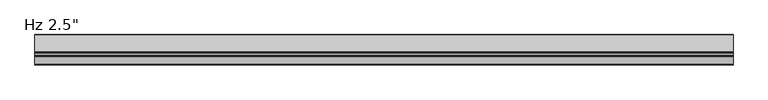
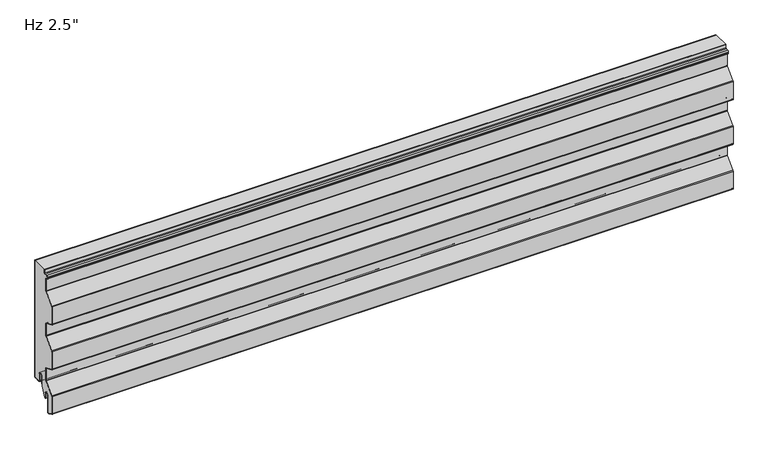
"""IFC4 building model written with IfcOpenShell, lengths in millimetres: plate geometry."""

from ifc_helpers import new_model, si_unit, point, frame, frame_2d, origin, place, context, project, spatial, polyline, circle_curve, trimmed, segment, composite_curve, outline, extrude, source, transform, mapped, element, save


def plate_841f3068(model_context):
    return source(origin(), model_context, "Body", "SweptSolid", [
        extrude(outline(composite_curve([segment(polyline([(-26.4011912, 19.05), (-26.4011912, -3.1976612), (-36.533822, -23.01875), (-38.6886912, -23.01875), (-38.6886912, -11.90625)]), True, "CONTINUOUS"), segment(trimmed(circle_curve(frame_2d((-43.6574412, -11.90625)), 4.96875), [point((-38.6886912, -11.90625))], [point((-48.6261912, -11.90625))], True, "CARTESIAN"), True, "CONTINUOUS"), segment(polyline([(-48.6261912, -11.90625), (-48.6261912, -48.8194049)]), True, "CONTINUOUS"), segment(trimmed(circle_curve(frame_2d((-50.0074412, -48.8194049)), 1.38125), [point((-48.6261912, -48.8194049))], [point((-50.5666208, -50.0824052))], False, "CARTESIAN"), True, "CONTINUOUS"), segment(polyline([(-50.5666208, -50.0824052), (-61.6779296, -45.1629946)]), True, "CONTINUOUS"), segment(trimmed(circle_curve(frame_2d((-61.11875, -43.8999943)), 1.38125), [point((-61.6779296, -45.1629946))], [point((-62.5, -43.8999943))], False, "CARTESIAN"), True, "CONTINUOUS"), segment(polyline([(-62.5, -43.8999943), (-62.5, -5.0536946)]), True, "CONTINUOUS"), segment(trimmed(circle_curve(frame_2d((-60.4012, -5.0536946)), 2.0988), [point((-62.5, -5.0536946))], [point((-61.9092077, -3.5939431))], False, "CARTESIAN"), True, "CONTINUOUS"), segment(polyline([(-61.9092077, -3.5939431), (-41.7145567, 17.2682996)]), True, "CONTINUOUS"), segment(trimmed(circle_curve(frame_2d((-43.5737, 19.0679503)), 2.5875), [point((-41.7145567, 17.2682996))], [point((-40.9862, 19.0679503))], True, "CARTESIAN"), True, "CONTINUOUS"), segment(polyline([(-40.9862, 19.0679503), (-40.9862, 45.5917981)]), True, "CONTINUOUS"), segment(trimmed(circle_curve(frame_2d((-43.5737, 45.5917981)), 2.5875), [point((-40.9862, 45.5917981))], [point((-42.5261871, 47.9577806))], True, "CARTESIAN"), True, "CONTINUOUS"), segment(polyline([(-42.5261871, 47.9577806), (-61.6779296, 56.4370054)]), True, "CONTINUOUS"), segment(trimmed(circle_curve(frame_2d((-61.11875, 57.7000057)), 1.38125), [point((-61.6779296, 56.4370054))], [point((-62.5, 57.7000057))], False, "CARTESIAN"), True, "CONTINUOUS"), segment(polyline([(-62.5, 57.7000057), (-62.5, 96.8367131)]), True, "CONTINUOUS"), segment(trimmed(circle_curve(frame_2d((-61.11875, 96.8367131)), 1.38125), [point((-62.5, 96.8367131))], [point((-62.1111912, 97.7973962))], False, "CARTESIAN"), True, "CONTINUOUS"), segment(polyline([(-62.1111912, 97.7973962), (-41.7145567, 118.8682996)]), True, "CONTINUOUS"), segment(trimmed(circle_curve(frame_2d((-43.5737, 120.6679503)), 2.5875), [point((-41.7145567, 118.8682996))], [point((-40.9862, 120.6679503))], True, "CARTESIAN"), True, "CONTINUOUS"), segment(polyline([(-40.9862, 120.6679503), (-40.9862, 147.1917981)]), True, "CONTINUOUS"), segment(trimmed(circle_curve(frame_2d((-43.5737, 147.1917981)), 2.5875), [point((-40.9862, 147.1917981))], [point((-42.5261871, 149.5577806))], True, "CARTESIAN"), True, "CONTINUOUS"), segment(polyline([(-42.5261871, 149.5577806), (-61.6779296, 158.0370054)]), True, "CONTINUOUS"), segment(trimmed(circle_curve(frame_2d((-61.11875, 159.3000057)), 1.38125), [point((-61.6779296, 158.0370054))], [point((-62.5, 159.3000057))], False, "CARTESIAN"), True, "CONTINUOUS"), segment(polyline([(-62.5, 159.3000057), (-62.5, 198.4367131)]), True, "CONTINUOUS"), segment(trimmed(circle_curve(frame_2d((-61.11875, 198.4367131)), 1.38125), [point((-62.5, 198.4367131))], [point((-62.1111912, 199.3973962))], False, "CARTESIAN"), True, "CONTINUOUS"), segment(polyline([(-62.1111912, 199.3973962), (-41.7145567, 220.4682996)]), True, "CONTINUOUS"), segment(trimmed(circle_curve(frame_2d((-43.5737, 222.2679503)), 2.5875), [point((-41.7145567, 220.4682996))], [point((-40.9862, 222.2679503))], True, "CARTESIAN"), True, "CONTINUOUS"), segment(polyline([(-40.9862, 222.2679503), (-40.9862, 248.7917981)]), True, "CONTINUOUS"), segment(trimmed(circle_curve(frame_2d((-43.5737, 248.7917981)), 2.5875), [point((-40.9862, 248.7917981))], [point((-42.5261871, 251.1577806))], True, "CARTESIAN"), True, "CONTINUOUS"), segment(polyline([(-42.5261871, 251.1577806), (-44.2166208, 251.9062016)]), True, "CONTINUOUS"), segment(trimmed(circle_curve(frame_2d((-43.6574412, 253.1692019)), 1.38125), [point((-44.2166208, 251.9062016))], [point((-45.0386912, 253.1692019))], False, "CARTESIAN"), True, "CONTINUOUS"), segment(polyline([(-45.0386912, 253.1692019), (-45.0386912, 255.4967085)]), True, "CONTINUOUS"), segment(trimmed(circle_curve(frame_2d((-43.6574412, 255.4967085)), 1.38125), [point((-45.0386912, 255.4967085))], [point((-43.7297302, 256.8760655))], False, "CARTESIAN"), True, "CONTINUOUS"), segment(polyline([(-43.7297302, 256.8760655), (-37.9657719, 257.1781418)]), True, "CONTINUOUS"), segment(trimmed(circle_curve(frame_2d((-38.1011912, 259.7620957)), 2.5875), [point((-37.9657719, 257.1781418))], [point((-35.5136912, 259.7620957))], True, "CARTESIAN"), True, "CONTINUOUS"), segment(polyline([(-35.5136912, 259.7620957), (-35.5136912, 266.4), (-1.0011912, 266.4), (-1.0011912, 3.175)]), True, "CONTINUOUS"), segment(trimmed(circle_curve(frame_2d((-2.3824412, 3.175)), 1.38125), [point((-1.0011912, 3.175))], [point((-2.3824412, 1.79375))], False, "CARTESIAN"), True, "CONTINUOUS"), segment(polyline([(-2.3824412, 1.79375), (-15.0824412, 1.79375)]), True, "CONTINUOUS"), segment(trimmed(circle_curve(frame_2d((-15.0824412, 3.175)), 1.38125), [point((-15.0824412, 1.79375))], [point((-16.4636912, 3.175))], False, "CARTESIAN"), True, "CONTINUOUS"), segment(polyline([(-16.4636912, 3.175), (-16.4636912, 19.05)]), True, "CONTINUOUS"), segment(trimmed(circle_curve(frame_2d((-21.4324412, 19.05)), 4.96875), [point((-16.4636912, 19.05))], [point((-26.4011912, 19.05))], True, "CARTESIAN"), True, "CONTINUOUS")], self_intersect=False)), frame((-730.0, 0.0, 0.0), z_axis=(1.0, 0.0, 0.0), x_axis=(0.0, 1.0, 0.0)), (0.0, 0.0, 1.0), 1460.0),
        extrude(outline(composite_curve([segment(polyline([(-25.4, 0.79375), (-26.4, 0.79375), (-26.4, 19.05)]), True, "CONTINUOUS"), segment(trimmed(circle_curve(frame_2d((-21.43125, 19.05)), 4.96875), [point((-26.4, 19.05))], [point((-16.4625, 19.05))], False, "CARTESIAN"), True, "CONTINUOUS"), segment(polyline([(-16.4625, 19.05), (-16.4625, 3.175)]), True, "CONTINUOUS"), segment(trimmed(circle_curve(frame_2d((-15.08125, 3.175)), 1.38125), [point((-16.4625, 3.175))], [point((-15.08125, 1.79375))], True, "CARTESIAN"), True, "CONTINUOUS"), segment(polyline([(-15.08125, 1.79375), (-2.38125, 1.79375)]), True, "CONTINUOUS"), segment(trimmed(circle_curve(frame_2d((-2.38125, 3.175)), 1.38125), [point((-2.38125, 1.79375))], [point((-1.0, 3.175))], True, "CARTESIAN"), True, "CONTINUOUS"), segment(polyline([(-1.0, 3.175), (-1.0, 266.4), (0.0, 266.4), (0.0, 3.175)]), True, "CONTINUOUS"), segment(trimmed(circle_curve(frame_2d((-2.38125, 3.175)), 2.38125), [point((0.0, 3.175))], [point((-2.38125, 0.79375))], False, "CARTESIAN"), True, "CONTINUOUS"), segment(polyline([(-2.38125, 0.79375), (-15.08125, 0.79375)]), True, "CONTINUOUS"), segment(trimmed(circle_curve(frame_2d((-15.08125, 3.175)), 2.38125), [point((-15.08125, 0.79375))], [point((-17.4625, 3.175))], False, "CARTESIAN"), True, "CONTINUOUS"), segment(polyline([(-17.4625, 3.175), (-17.4625, 19.05)]), True, "CONTINUOUS"), segment(trimmed(circle_curve(frame_2d((-21.43125, 19.05)), 3.96875), [point((-17.4625, 19.05))], [point((-25.4, 19.05))], True, "CARTESIAN"), True, "CONTINUOUS"), segment(polyline([(-25.4, 19.05), (-25.4, 0.79375)]), True, "CONTINUOUS")], self_intersect=False)), frame((-730.0, 0.0, 0.0), z_axis=(1.0, 0.0, 0.0), x_axis=(0.0, 1.0, 0.0)), (0.0, 0.0, 1.0), 1460.0),
        extrude(outline(composite_curve([segment(polyline([(-47.6261912, -11.90625), (-47.6261912, -48.8194049)]), True, "CONTINUOUS"), segment(trimmed(circle_curve(frame_2d((-50.0074412, -48.8194049)), 2.38125), [point((-47.6261912, -48.8194049))], [point((-50.9714567, -50.9967946))], False, "CARTESIAN"), True, "CONTINUOUS"), segment(polyline([(-50.9714567, -50.9967946), (-62.0827655, -46.0773839)]), True, "CONTINUOUS"), segment(trimmed(circle_curve(frame_2d((-61.11875, -43.8999943)), 2.38125), [point((-62.0827655, -46.0773839))], [point((-63.5, -43.8999943))], False, "CARTESIAN"), True, "CONTINUOUS"), segment(polyline([(-63.5, -43.8999943), (-63.5, -5.0536946)]), True, "CONTINUOUS"), segment(trimmed(circle_curve(frame_2d((-60.4012, -5.0536946)), 3.0988), [point((-63.5, -5.0536946))], [point((-62.6277172, -2.8984259))], False, "CARTESIAN"), True, "CONTINUOUS"), segment(polyline([(-62.6277172, -2.8984259), (-42.4330662, 17.9638168)]), True, "CONTINUOUS"), segment(trimmed(circle_curve(frame_2d((-43.5737, 19.0679503)), 1.5875), [point((-42.4330662, 17.9638168))], [point((-41.9862, 19.0679503))], True, "CARTESIAN"), True, "CONTINUOUS"), segment(polyline([(-41.9862, 19.0679503), (-41.9862, 45.5917981)]), True, "CONTINUOUS"), segment(trimmed(circle_curve(frame_2d((-43.5737, 45.5917981)), 1.5875), [point((-41.9862, 45.5917981))], [point((-42.931023, 47.0433912))], True, "CARTESIAN"), True, "CONTINUOUS"), segment(polyline([(-42.931023, 47.0433912), (-62.0827655, 55.5226161)]), True, "CONTINUOUS"), segment(trimmed(circle_curve(frame_2d((-61.11875, 57.7000057)), 2.38125), [point((-62.0827655, 55.5226161))], [point((-63.5, 57.7000057))], False, "CARTESIAN"), True, "CONTINUOUS"), segment(polyline([(-63.5, 57.7000057), (-63.5, 96.8367131)]), True, "CONTINUOUS"), segment(trimmed(circle_curve(frame_2d((-61.11875, 96.8367131)), 2.38125), [point((-63.5, 96.8367131))], [point((-62.8297007, 98.4929134))], False, "CARTESIAN"), True, "CONTINUOUS"), segment(polyline([(-62.8297007, 98.4929134), (-42.4330662, 119.5638168)]), True, "CONTINUOUS"), segment(trimmed(circle_curve(frame_2d((-43.5737, 120.6679503)), 1.5875), [point((-42.4330662, 119.5638168))], [point((-41.9862, 120.6679503))], True, "CARTESIAN"), True, "CONTINUOUS"), segment(polyline([(-41.9862, 120.6679503), (-41.9862, 147.1917981)]), True, "CONTINUOUS"), segment(trimmed(circle_curve(frame_2d((-43.5737, 147.1917981)), 1.5875), [point((-41.9862, 147.1917981))], [point((-42.931023, 148.6433912))], True, "CARTESIAN"), True, "CONTINUOUS"), segment(polyline([(-42.931023, 148.6433912), (-62.0827655, 157.1226161)]), True, "CONTINUOUS"), segment(trimmed(circle_curve(frame_2d((-61.11875, 159.3000057)), 2.38125), [point((-62.0827655, 157.1226161))], [point((-63.5, 159.3000057))], False, "CARTESIAN"), True, "CONTINUOUS"), segment(polyline([(-63.5, 159.3000057), (-63.5, 198.4367131)]), True, "CONTINUOUS"), segment(trimmed(circle_curve(frame_2d((-61.11875, 198.4367131)), 2.38125), [point((-63.5, 198.4367131))], [point((-62.8297007, 200.0929134))], False, "CARTESIAN"), True, "CONTINUOUS"), segment(polyline([(-62.8297007, 200.0929134), (-42.4330662, 221.1638168)]), True, "CONTINUOUS"), segment(trimmed(circle_curve(frame_2d((-43.5737, 222.2679503)), 1.5875), [point((-42.4330662, 221.1638168))], [point((-41.9862, 222.2679503))], True, "CARTESIAN"), True, "CONTINUOUS"), segment(polyline([(-41.9862, 222.2679503), (-41.9862, 248.7917981)]), True, "CONTINUOUS"), segment(trimmed(circle_curve(frame_2d((-43.5737, 248.7917981)), 1.5875), [point((-41.9862, 248.7917981))], [point((-42.931023, 250.2433912))], True, "CARTESIAN"), True, "CONTINUOUS"), segment(polyline([(-42.931023, 250.2433912), (-44.6214567, 250.9918123)]), True, "CONTINUOUS"), segment(trimmed(circle_curve(frame_2d((-43.6574412, 253.1692019)), 2.38125), [point((-44.6214567, 250.9918123))], [point((-46.0386912, 253.1692019))], False, "CARTESIAN"), True, "CONTINUOUS"), segment(polyline([(-46.0386912, 253.1692019), (-46.0386912, 255.4967085)]), True, "CONTINUOUS"), segment(trimmed(circle_curve(frame_2d((-43.6574412, 255.4967085)), 2.38125), [point((-46.0386912, 255.4967085))], [point((-43.7820662, 257.8746951))], False, "CARTESIAN"), True, "CONTINUOUS"), segment(polyline([(-43.7820662, 257.8746951), (-38.0181078, 258.1767713)]), True, "CONTINUOUS"), segment(trimmed(circle_curve(frame_2d((-38.1011912, 259.7620957)), 1.5875), [point((-38.0181078, 258.1767713))], [point((-36.5136912, 259.7620957))], True, "CARTESIAN"), True, "CONTINUOUS"), segment(polyline([(-36.5136912, 259.7620957), (-36.5136912, 266.4), (-35.5136912, 266.4), (-35.5136912, 259.7620957)]), True, "CONTINUOUS"), segment(trimmed(circle_curve(frame_2d((-38.1011912, 259.7620957)), 2.5875), [point((-35.5136912, 259.7620957))], [point((-37.9657719, 257.1781418))], False, "CARTESIAN"), True, "CONTINUOUS"), segment(polyline([(-37.9657719, 257.1781418), (-43.7297302, 256.8760655)]), True, "CONTINUOUS"), segment(trimmed(circle_curve(frame_2d((-43.6574412, 255.4967085)), 1.38125), [point((-43.7297302, 256.8760655))], [point((-45.0386912, 255.4967085))], True, "CARTESIAN"), True, "CONTINUOUS"), segment(polyline([(-45.0386912, 255.4967085), (-45.0386912, 253.1692019)]), True, "CONTINUOUS"), segment(trimmed(circle_curve(frame_2d((-43.6574412, 253.1692019)), 1.38125), [point((-45.0386912, 253.1692019))], [point((-44.2166208, 251.9062016))], True, "CARTESIAN"), True, "CONTINUOUS"), segment(polyline([(-44.2166208, 251.9062016), (-42.5261871, 251.1577806)]), True, "CONTINUOUS"), segment(trimmed(circle_curve(frame_2d((-43.5737, 248.7917981)), 2.5875), [point((-42.5261871, 251.1577806))], [point((-40.9862, 248.7917981))], False, "CARTESIAN"), True, "CONTINUOUS"), segment(polyline([(-40.9862, 248.7917981), (-40.9862, 222.2679503)]), True, "CONTINUOUS"), segment(trimmed(circle_curve(frame_2d((-43.5737, 222.2679503)), 2.5875), [point((-40.9862, 222.2679503))], [point((-41.7145567, 220.4682996))], False, "CARTESIAN"), True, "CONTINUOUS"), segment(polyline([(-41.7145567, 220.4682996), (-62.1111912, 199.3973962)]), True, "CONTINUOUS"), segment(trimmed(circle_curve(frame_2d((-61.11875, 198.4367131)), 1.38125), [point((-62.1111912, 199.3973962))], [point((-62.5, 198.4367131))], True, "CARTESIAN"), True, "CONTINUOUS"), segment(polyline([(-62.5, 198.4367131), (-62.5, 159.3000057)]), True, "CONTINUOUS"), segment(trimmed(circle_curve(frame_2d((-61.11875, 159.3000057)), 1.38125), [point((-62.5, 159.3000057))], [point((-61.6779296, 158.0370054))], True, "CARTESIAN"), True, "CONTINUOUS"), segment(polyline([(-61.6779296, 158.0370054), (-42.5261871, 149.5577806)]), True, "CONTINUOUS"), segment(trimmed(circle_curve(frame_2d((-43.5737, 147.1917981)), 2.5875), [point((-42.5261871, 149.5577806))], [point((-40.9862, 147.1917981))], False, "CARTESIAN"), True, "CONTINUOUS"), segment(polyline([(-40.9862, 147.1917981), (-40.9862, 120.6679503)]), True, "CONTINUOUS"), segment(trimmed(circle_curve(frame_2d((-43.5737, 120.6679503)), 2.5875), [point((-40.9862, 120.6679503))], [point((-41.7145567, 118.8682996))], False, "CARTESIAN"), True, "CONTINUOUS"), segment(polyline([(-41.7145567, 118.8682996), (-62.1111912, 97.7973962)]), True, "CONTINUOUS"), segment(trimmed(circle_curve(frame_2d((-61.11875, 96.8367131)), 1.38125), [point((-62.1111912, 97.7973962))], [point((-62.5, 96.8367131))], True, "CARTESIAN"), True, "CONTINUOUS"), segment(polyline([(-62.5, 96.8367131), (-62.5, 57.7000057)]), True, "CONTINUOUS"), segment(trimmed(circle_curve(frame_2d((-61.11875, 57.7000057)), 1.38125), [point((-62.5, 57.7000057))], [point((-61.6779296, 56.4370054))], True, "CARTESIAN"), True, "CONTINUOUS"), segment(polyline([(-61.6779296, 56.4370054), (-42.5261871, 47.9577806)]), True, "CONTINUOUS"), segment(trimmed(circle_curve(frame_2d((-43.5737, 45.5917981)), 2.5875), [point((-42.5261871, 47.9577806))], [point((-40.9862, 45.5917981))], False, "CARTESIAN"), True, "CONTINUOUS"), segment(polyline([(-40.9862, 45.5917981), (-40.9862, 19.0679503)]), True, "CONTINUOUS"), segment(trimmed(circle_curve(frame_2d((-43.5737, 19.0679503)), 2.5875), [point((-40.9862, 19.0679503))], [point((-41.7145567, 17.2682996))], False, "CARTESIAN"), True, "CONTINUOUS"), segment(polyline([(-41.7145567, 17.2682996), (-61.9092077, -3.5939431)]), True, "CONTINUOUS"), segment(trimmed(circle_curve(frame_2d((-60.4012, -5.0536946)), 2.0988), [point((-61.9092077, -3.5939431))], [point((-62.5, -5.0536946))], True, "CARTESIAN"), True, "CONTINUOUS"), segment(polyline([(-62.5, -5.0536946), (-62.5, -43.8999943)]), True, "CONTINUOUS"), segment(trimmed(circle_curve(frame_2d((-61.11875, -43.8999943)), 1.38125), [point((-62.5, -43.8999943))], [point((-61.6779296, -45.1629946))], True, "CARTESIAN"), True, "CONTINUOUS"), segment(polyline([(-61.6779296, -45.1629946), (-50.5666208, -50.0824052)]), True, "CONTINUOUS"), segment(trimmed(circle_curve(frame_2d((-50.0074412, -48.8194049)), 1.38125), [point((-50.5666208, -50.0824052))], [point((-48.6261912, -48.8194049))], True, "CARTESIAN"), True, "CONTINUOUS"), segment(polyline([(-48.6261912, -48.8194049), (-48.6261912, -11.90625)]), True, "CONTINUOUS"), segment(trimmed(circle_curve(frame_2d((-43.6574412, -11.90625)), 4.96875), [point((-48.6261912, -11.90625))], [point((-38.6886912, -11.90625))], False, "CARTESIAN"), True, "CONTINUOUS"), segment(polyline([(-38.6886912, -11.90625), (-38.6886912, -23.01875), (-39.6886912, -23.01875), (-39.6886912, -11.90625)]), True, "CONTINUOUS"), segment(trimmed(circle_curve(frame_2d((-43.6574412, -11.90625)), 3.96875), [point((-39.6886912, -11.90625))], [point((-47.6261912, -11.90625))], True, "CARTESIAN"), True, "CONTINUOUS")], self_intersect=False)), frame((-730.0, 0.0, 0.0), z_axis=(1.0, 0.0, 0.0), x_axis=(0.0, 1.0, 0.0)), (0.0, 0.0, 1.0), 1460.0),
    ])


if __name__ == "__main__":
    model = new_model("IFC4")
    model_context = context("Model", 3, world=origin())
    ifc_project = project(units=[si_unit("LENGTHUNIT", "METRE", prefix="MILLI")], contexts=[model_context])
    site = spatial("IfcSite", under=ifc_project)
    building = spatial("IfcBuilding", under=site)
    placement = place(None, origin())
    plate_shape = plate_841f3068(model_context)
    element("IfcPlate", 1, ObjectType="KIP-12-DWR-R19-CP-Hz-S : Hz 2.5\"", at=placement, inside=building, context=model_context, shape_type="MappedRepresentation", body=[
        mapped(plate_shape, transform((0.0, 0.0, 0.0), x_axis=(1.0, 0.0, 0.0), y_axis=(0.0, 1.0, 0.0), z_axis=(0.0, 0.0, 1.0))),
    ])
    save(model, "model.ifc")
